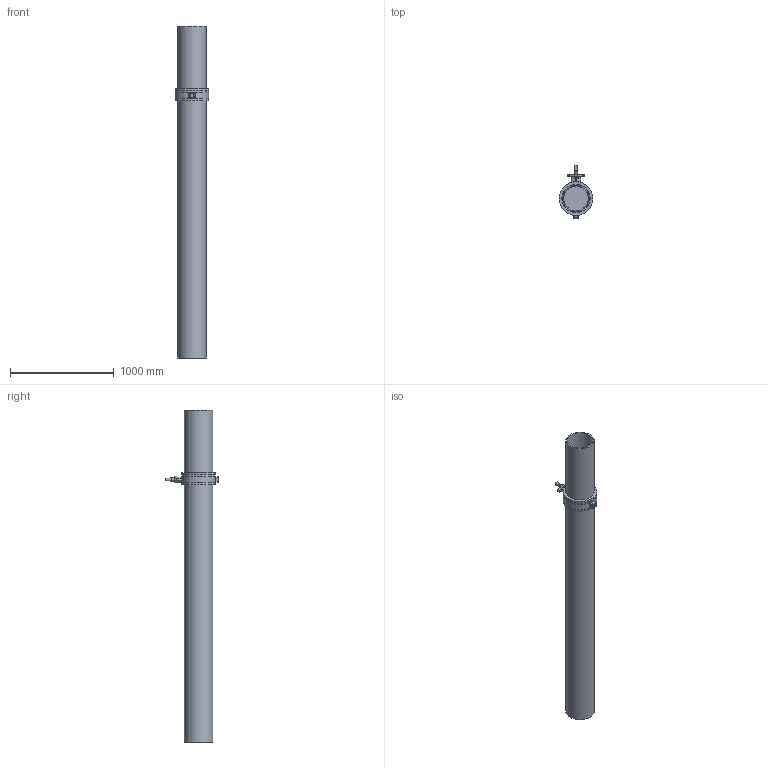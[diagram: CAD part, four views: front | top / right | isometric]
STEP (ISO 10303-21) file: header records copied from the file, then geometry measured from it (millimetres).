
FILE_DESCRIPTION(/* description */ (''),/* implementation_level */ '2;1');
FILE_NAME(/* name */ 'E:\Chaitanya\CVP\IVDC 2019\Technical\Geometry\Base Model\CAD Files and Guidelines document - IVDC 2019\Multi-body Part File\DN250_DOBV_CL150.stp',/* time_stamp */ '2019-11-11T16:28:34+06:00',/* author */ ('Admin'),/* organization */ (''),/* preprocessor_version */ 'ST-DEVELOPER v17',/* originating_system */ 'Autodesk Inventor 2019',/* authorisation */ '');
FILE_SCHEMA (('AUTOMOTIVE_DESIGN { 1 0 10303 214 3 1 1 }'));
Length unit declared in the file: inch
Products named in the file (1): DN250_DOBV_CL150_Shrinkwrap_1
Bounding box: 324 x 519 x 3200 mm (x, y, z)
Volume: 28971456.1 mm3; surface area: 5932058.8 mm2
Topology: 9 solids, 14 shells, 310 faces, 798 edges, 523 vertices
Faces by surface type: plane 107, cylinder 101, cone 82, torus 8, bspline 8, sphere 4
Full cylindrical faces by diameter (mm): 5 x24, 10 x16, 32 x1, 34.9 x11, 38 x5, 247 x1, 250 x1, 254.508 x2, 273.05 x2, 294 x1, 324 x3
Entity records: 10959 total; most frequent: CARTESIAN_POINT 2639, DIRECTION 1765, ORIENTED_EDGE 1588, EDGE_CURVE 794, AXIS2_PLACEMENT_3D 718, VERTEX_POINT 523, CIRCLE 411, EDGE_LOOP 379
